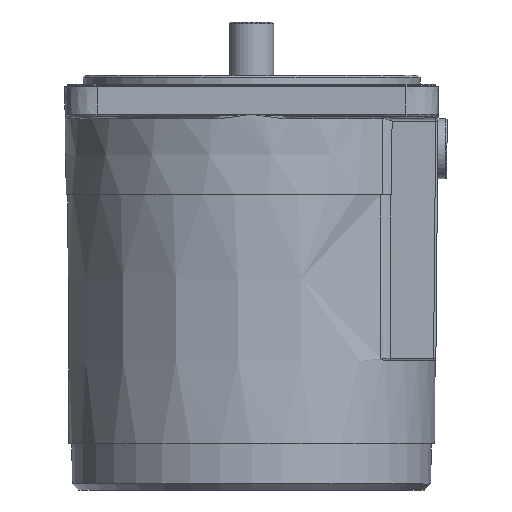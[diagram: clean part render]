
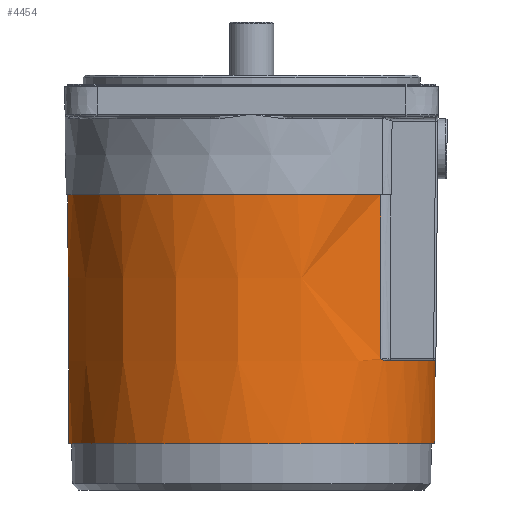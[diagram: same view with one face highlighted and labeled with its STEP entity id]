
A CAD part, left-side view. The second image highlights one B-rep face of the part: STEP entity #4454.
In plain terms, the highlighted conical face has half-angle 0.318 degrees and reference radius 40.05 mm.
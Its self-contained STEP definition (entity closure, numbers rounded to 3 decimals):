
#65 = CARTESIAN_POINT ( 'NONE',  ( 5.38, -39.485, -59.5 ) ) ;
#76 = CARTESIAN_POINT ( 'NONE',  ( -27.974, -28.384, -59.239 ) ) ;
#95 = ORIENTED_EDGE ( 'NONE', *, *, #3700, .T. ) ;
#122 = VERTEX_POINT ( 'NONE', #3345 ) ;
#124 = CARTESIAN_POINT ( 'NONE',  ( -28.369, -27.99, -59.003 ) ) ;
#129 = CARTESIAN_POINT ( 'NONE',  ( 28.549, -27.977, -37.5 ) ) ;
#223 = CARTESIAN_POINT ( 'NONE',  ( -27.122, -29.196, -59.5 ) ) ;
#248 = ORIENTED_EDGE ( 'NONE', *, *, #2845, .T. ) ;
#366 = CARTESIAN_POINT ( 'NONE',  ( -3.594, -39.698, -59.458 ) ) ;
#456 = EDGE_CURVE ( 'NONE', #1574, #3562, #1888, .T. ) ;
#467 = CARTESIAN_POINT ( 'NONE',  ( 28.633, -27.971, -27.5 ) ) ;
#571 = CARTESIAN_POINT ( 'NONE',  ( -5.38, -39.485, -59.5 ) ) ;
#606 = DIRECTION ( 'NONE',  ( 0., 0., -1. ) ) ;
#626 = ORIENTED_EDGE ( 'NONE', *, *, #3467, .T. ) ;
#682 = DIRECTION ( 'NONE',  ( 0., 0., -1. ) ) ;
#693 = ORIENTED_EDGE ( 'NONE', *, *, #4308, .T. ) ;
#796 = CARTESIAN_POINT ( 'NONE',  ( -28.616, -27.972, -29.501 ) ) ;
#815 = CARTESIAN_POINT ( 'NONE',  ( 28.667, -27.968, -23.5 ) ) ;
#840 = DIRECTION ( 'NONE',  ( 0., 0., 1. ) ) ;
#886 = CARTESIAN_POINT ( 'NONE',  ( 0., 0., -23.5 ) ) ;
#897 = EDGE_LOOP ( 'NONE', ( #3547 ) ) ;
#955 = AXIS2_PLACEMENT_3D ( 'NONE', #2194, #1069, #1785 ) ;
#981 = CARTESIAN_POINT ( 'NONE',  ( 28.4, -27.988, -55.334 ) ) ;
#1041 = VERTEX_POINT ( 'NONE', #3589 ) ;
#1069 = DIRECTION ( 'NONE',  ( 0., 0., -1. ) ) ;
#1133 = CARTESIAN_POINT ( 'NONE',  ( 0.896, -39.851, -59.341 ) ) ;
#1149 = VERTEX_POINT ( 'NONE', #571 ) ;
#1171 = CARTESIAN_POINT ( 'NONE',  ( -28.482, -27.982, -45.5 ) ) ;
#1218 = B_SPLINE_CURVE_WITH_KNOTS ( 'NONE', 3,
 ( #2102, #3188, #1827, #2819, #4217, #76, #2879, #2539 ),
 .UNSPECIFIED., .F., .F.,
 ( 4, 2, 2, 4 ),
 ( 0., 0., 0.001, 0.002 ),
 .UNSPECIFIED. ) ;
#1222 = EDGE_CURVE ( 'NONE', #3562, #122, #2514, .T. ) ;
#1316 = CARTESIAN_POINT ( 'NONE',  ( 27.663, -28.685, -59.381 ) ) ;
#1357 = CARTESIAN_POINT ( 'NONE',  ( 28.384, -27.989, -57.168 ) ) ;
#1437 = CARTESIAN_POINT ( 'NONE',  ( -4.488, -39.607, -59.5 ) ) ;
#1574 = VERTEX_POINT ( 'NONE', #3582 ) ;
#1584 = EDGE_CURVE ( 'NONE', #3770, #4429, #4065, .T. ) ;
#1693 = CIRCLE ( 'NONE', #955, 39.75 ) ;
#1697 = CARTESIAN_POINT ( 'NONE',  ( 28.415, -27.987, -53.499 ) ) ;
#1755 = CIRCLE ( 'NONE', #1826, 39.85 ) ;
#1775 = CONICAL_SURFACE ( 'NONE', #2353, 40.05, 0.006 ) ;
#1777 = CARTESIAN_POINT ( 'NONE',  ( 3.591, -39.698, -59.458 ) ) ;
#1785 = DIRECTION ( 'NONE',  ( -1., 0., 0. ) ) ;
#1826 = AXIS2_PLACEMENT_3D ( 'NONE', #2350, #606, #4062 ) ;
#1827 = CARTESIAN_POINT ( 'NONE',  ( -27.343, -28.99, -59.481 ) ) ;
#1838 = CARTESIAN_POINT ( 'NONE',  ( -28.549, -27.977, -37.501 ) ) ;
#1861 = CARTESIAN_POINT ( 'NONE',  ( -28.65, -27.969, -25.5 ) ) ;
#1876 = CARTESIAN_POINT ( 'NONE',  ( 28.616, -27.972, -29.5 ) ) ;
#1888 = B_SPLINE_CURVE_WITH_KNOTS ( 'NONE', 3,
 ( #2960, #2664, #3380, #1316, #3761, #2979, #4366, #4391 ),
 .UNSPECIFIED., .F., .F.,
 ( 4, 2, 2, 4 ),
 ( 0., 0.001, 0.001, 0.002 ),
 .UNSPECIFIED. ) ;
#1991 = CIRCLE ( 'NONE', #2795, 40.05 ) ;
#2054 = CARTESIAN_POINT ( 'NONE',  ( 28.369, -27.99, -59.003 ) ) ;
#2102 = CARTESIAN_POINT ( 'NONE',  ( -27.122, -29.196, -59.5 ) ) ;
#2194 = CARTESIAN_POINT ( 'NONE',  ( 0., 0., -77.5 ) ) ;
#2204 = CARTESIAN_POINT ( 'NONE',  ( -28.633, -27.971, -27.501 ) ) ;
#2208 = CARTESIAN_POINT ( 'NONE',  ( -5.38, -39.485, -59.5 ) ) ;
#2251 = EDGE_CURVE ( 'NONE', #1149, #3460, #1755, .T. ) ;
#2262 = VERTEX_POINT ( 'NONE', #2563 ) ;
#2350 = CARTESIAN_POINT ( 'NONE',  ( 0., 0., -59.5 ) ) ;
#2353 = AXIS2_PLACEMENT_3D ( 'NONE', #886, #840, #3356 ) ;
#2412 = ORIENTED_EDGE ( 'NONE', *, *, #1584, .T. ) ;
#2458 = DIRECTION ( 'NONE',  ( -1., 0., 0. ) ) ;
#2507 = CARTESIAN_POINT ( 'NONE',  ( 1.797, -39.82, -59.378 ) ) ;
#2514 = CIRCLE ( 'NONE', #4330, 39.85 ) ;
#2539 = CARTESIAN_POINT ( 'NONE',  ( -28.369, -27.99, -59.003 ) ) ;
#2563 = CARTESIAN_POINT ( 'NONE',  ( -39.75, 0., -77.5 ) ) ;
#2664 = CARTESIAN_POINT ( 'NONE',  ( 28.173, -28.188, -59.121 ) ) ;
#2682 = B_SPLINE_CURVE_WITH_KNOTS ( 'NONE', 3,
 ( #65, #3878, #1777, #2507, #1133, #4278, #2916, #366, #1437, #2208 ),
 .UNSPECIFIED., .F., .F.,
 ( 4, 2, 2, 2, 4 ),
 ( 0., 0.003, 0.005, 0.008, 0.011 ),
 .UNSPECIFIED. ) ;
#2689 = CARTESIAN_POINT ( 'NONE',  ( 28.482, -27.982, -45.499 ) ) ;
#2795 = AXIS2_PLACEMENT_3D ( 'NONE', #3825, #682, #2458 ) ;
#2819 = CARTESIAN_POINT ( 'NONE',  ( -27.558, -28.786, -59.421 ) ) ;
#2845 = EDGE_CURVE ( 'NONE', #122, #1149, #2682, .T. ) ;
#2879 = CARTESIAN_POINT ( 'NONE',  ( -28.173, -28.187, -59.12 ) ) ;
#2887 = CARTESIAN_POINT ( 'NONE',  ( -28.667, -27.968, -23.5 ) ) ;
#2916 = CARTESIAN_POINT ( 'NONE',  ( -1.802, -39.82, -59.378 ) ) ;
#2960 = CARTESIAN_POINT ( 'NONE',  ( 28.369, -27.99, -59.003 ) ) ;
#2979 = CARTESIAN_POINT ( 'NONE',  ( 27.343, -28.99, -59.481 ) ) ;
#3016 = B_SPLINE_CURVE_WITH_KNOTS ( 'NONE', 3,
 ( #815, #3625, #467, #1876, #129, #2689, #1697, #981, #1357, #2054 ),
 .UNSPECIFIED., .F., .F.,
 ( 4, 3, 3, 4 ),
 ( 0., 0.006, 0.03, 0.036 ),
 .UNSPECIFIED. ) ;
#3188 = CARTESIAN_POINT ( 'NONE',  ( -27.234, -29.092, -59.5 ) ) ;
#3268 = CARTESIAN_POINT ( 'NONE',  ( -28.384, -27.989, -57.169 ) ) ;
#3290 = CARTESIAN_POINT ( 'NONE',  ( -28.4, -27.988, -55.334 ) ) ;
#3345 = CARTESIAN_POINT ( 'NONE',  ( 5.38, -39.485, -59.5 ) ) ;
#3356 = DIRECTION ( 'NONE',  ( 1., 0., 0. ) ) ;
#3363 = DIRECTION ( 'NONE',  ( -1., 0., 0. ) ) ;
#3369 = ORIENTED_EDGE ( 'NONE', *, *, #456, .T. ) ;
#3380 = CARTESIAN_POINT ( 'NONE',  ( 27.974, -28.384, -59.239 ) ) ;
#3460 = VERTEX_POINT ( 'NONE', #223 ) ;
#3467 = EDGE_CURVE ( 'NONE', #1041, #1574, #3016, .T. ) ;
#3547 = ORIENTED_EDGE ( 'NONE', *, *, #3641, .F. ) ;
#3562 = VERTEX_POINT ( 'NONE', #4109 ) ;
#3582 = CARTESIAN_POINT ( 'NONE',  ( 28.369, -27.99, -59.003 ) ) ;
#3589 = CARTESIAN_POINT ( 'NONE',  ( 28.667, -27.968, -23.5 ) ) ;
#3607 = CARTESIAN_POINT ( 'NONE',  ( -28.667, -27.968, -23.5 ) ) ;
#3625 = CARTESIAN_POINT ( 'NONE',  ( 28.65, -27.969, -25.5 ) ) ;
#3641 = EDGE_CURVE ( 'NONE', #2262, #2262, #1693, .T. ) ;
#3646 = CARTESIAN_POINT ( 'NONE',  ( -28.415, -27.987, -53.5 ) ) ;
#3700 = EDGE_CURVE ( 'NONE', #3460, #3770, #1218, .T. ) ;
#3761 = CARTESIAN_POINT ( 'NONE',  ( 27.558, -28.786, -59.421 ) ) ;
#3770 = VERTEX_POINT ( 'NONE', #124 ) ;
#3825 = CARTESIAN_POINT ( 'NONE',  ( 0., 0., -23.5 ) ) ;
#3878 = CARTESIAN_POINT ( 'NONE',  ( 4.487, -39.607, -59.5 ) ) ;
#3936 = CARTESIAN_POINT ( 'NONE',  ( -28.369, -27.99, -59.003 ) ) ;
#3978 = FACE_OUTER_BOUND ( 'NONE', #4437, .T. ) ;
#4024 = FACE_BOUND ( 'NONE', #897, .T. ) ;
#4035 = CARTESIAN_POINT ( 'NONE',  ( 0., 0., -59.5 ) ) ;
#4057 = ORIENTED_EDGE ( 'NONE', *, *, #1222, .T. ) ;
#4062 = DIRECTION ( 'NONE',  ( -1., 0., 0. ) ) ;
#4065 = B_SPLINE_CURVE_WITH_KNOTS ( 'NONE', 3,
 ( #3936, #3268, #3290, #3646, #1171, #1838, #796, #2204, #1861, #3607 ),
 .UNSPECIFIED., .F., .F.,
 ( 4, 3, 3, 4 ),
 ( 0., 0.006, 0.03, 0.036 ),
 .UNSPECIFIED. ) ;
#4091 = ORIENTED_EDGE ( 'NONE', *, *, #2251, .T. ) ;
#4109 = CARTESIAN_POINT ( 'NONE',  ( 27.122, -29.196, -59.5 ) ) ;
#4217 = CARTESIAN_POINT ( 'NONE',  ( -27.663, -28.685, -59.381 ) ) ;
#4278 = CARTESIAN_POINT ( 'NONE',  ( -0.905, -39.851, -59.341 ) ) ;
#4308 = EDGE_CURVE ( 'NONE', #4429, #1041, #1991, .T. ) ;
#4330 = AXIS2_PLACEMENT_3D ( 'NONE', #4035, #4428, #3363 ) ;
#4366 = CARTESIAN_POINT ( 'NONE',  ( 27.234, -29.092, -59.5 ) ) ;
#4391 = CARTESIAN_POINT ( 'NONE',  ( 27.122, -29.196, -59.5 ) ) ;
#4428 = DIRECTION ( 'NONE',  ( 0., 0., -1. ) ) ;
#4429 = VERTEX_POINT ( 'NONE', #2887 ) ;
#4437 = EDGE_LOOP ( 'NONE', ( #693, #626, #3369, #4057, #248, #4091, #95, #2412 ) ) ;
#4454 = ADVANCED_FACE ( 'NONE', ( #4024, #3978 ), #1775, .T. ) ;
